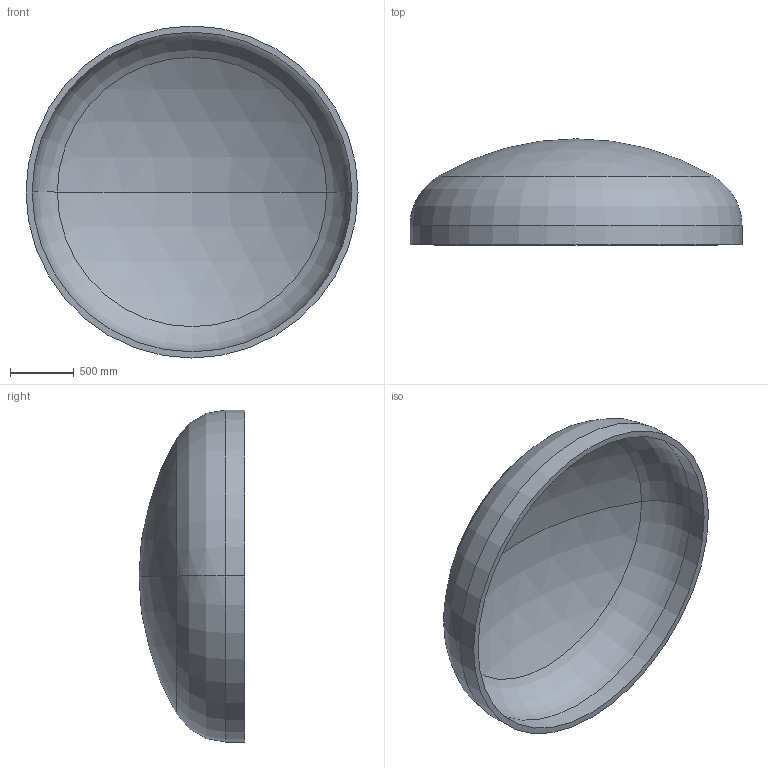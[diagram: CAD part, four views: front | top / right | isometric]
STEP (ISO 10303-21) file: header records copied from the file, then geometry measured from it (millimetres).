
FILE_DESCRIPTION (( 'STEP AP203' ), '1' );
FILE_NAME ('DIN 28013 Korbbogenform_-_Boden DIN 28013 - 2600 x 150 - I - s=48.step', '2016-07-01T16:14:56', ( '' ), ( '' ), 'SwSTEP 2.0', 'SolidWorks 2013', '' );
FILE_SCHEMA (( 'CONFIG_CONTROL_DESIGN' ));
Length unit declared in the file: millimetre
Products named in the file (1): DIN 28013 Korbbogenform_-_Boden DIN 28013 - 2600 x 150 - I - s=48
Bounding box: 2600 x 830.07 x 2600 mm (x, y, z)
Volume: 402130800 mm3; surface area: 17145102.6 mm2
Topology: 1 solids, 1 shells, 13 faces, 24 edges, 14 vertices
Faces by surface type: torus 4, cylinder 4, sphere 4, plane 1
Entity records: 407 total; most frequent: DIRECTION 72, CARTESIAN_POINT 52, ORIENTED_EDGE 48, AXIS2_PLACEMENT_3D 34, EDGE_CURVE 24, CIRCLE 20, EDGE_LOOP 14, VERTEX_POINT 14
